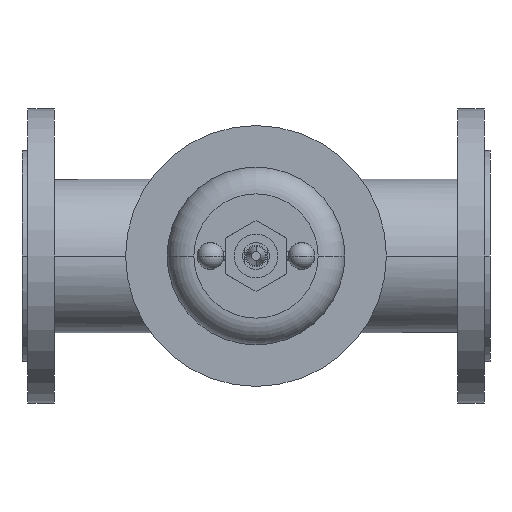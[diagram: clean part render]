
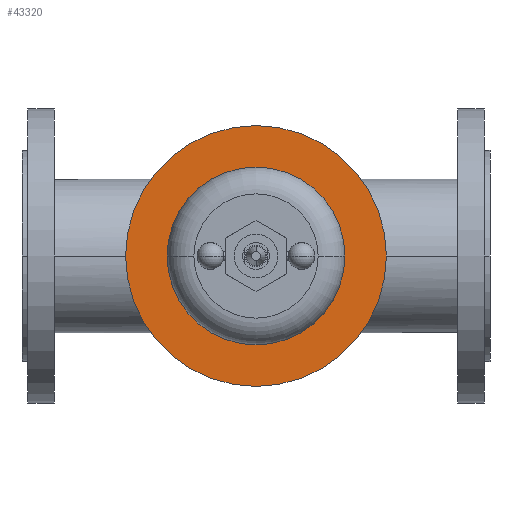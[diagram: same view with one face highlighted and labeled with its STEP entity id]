
A CAD part, front view. The second image highlights one B-rep face of the part: STEP entity #43320.
In plain terms, the highlighted planar face has unit normal (0, -1, 0).
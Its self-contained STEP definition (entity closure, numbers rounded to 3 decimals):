
#9550=CARTESIAN_POINT('',(108.5,-142.5,0.));
#9560=VERTEX_POINT('',#9550);
#9590=CARTESIAN_POINT('',(175.,-142.5,0.));
#9600=DIRECTION('',(0.,-1.,0.));
#9610=DIRECTION('',(-1.,0.,0.));
#9620=AXIS2_PLACEMENT_3D('',#9590,#9600,#9610);
#9630=CIRCLE('',#9620,66.5);
#9640=CARTESIAN_POINT('',(241.5,-142.5,0.));
#9650=VERTEX_POINT('',#9640);
#9660=EDGE_CURVE('',#9650,#9560,#9630,.T.);
#18590=CARTESIAN_POINT('',(272.5,-142.5,0.));
#18600=VERTEX_POINT('',#18590);
#18630=CARTESIAN_POINT('',(175.,-142.5,0.));
#18640=DIRECTION('',(0.,-1.,0.));
#18650=DIRECTION('',(1.,0.,0.));
#18660=AXIS2_PLACEMENT_3D('',#18630,#18640,#18650);
#18670=CIRCLE('',#18660,97.5);
#18680=CARTESIAN_POINT('',(77.5,-142.5,0.));
#18690=VERTEX_POINT('',#18680);
#18700=EDGE_CURVE('',#18600,#18690,#18670,.T.);
#43170=CARTESIAN_POINT('',(92.5,-142.5,0.));
#43180=DIRECTION('',(0.,-1.,0.));
#43190=DIRECTION('',(-1.,0.,0.));
#43200=AXIS2_PLACEMENT_3D('',#43170,#43180,#43190);
#43210=PLANE('',#43200);
#43220=ORIENTED_EDGE('',*,*,#18700,.T.);
#43230=EDGE_CURVE('',#18690,#18600,#18670,.T.);
#43240=ORIENTED_EDGE('',*,*,#43230,.T.);
#43250=EDGE_LOOP('',(#43240,#43220));
#43260=FACE_OUTER_BOUND('',#43250,.T.);
#43270=ORIENTED_EDGE('',*,*,#9660,.F.);
#43280=EDGE_CURVE('',#9560,#9650,#9630,.T.);
#43290=ORIENTED_EDGE('',*,*,#43280,.F.);
#43300=EDGE_LOOP('',(#43290,#43270));
#43310=FACE_BOUND('',#43300,.T.);
#43320=ADVANCED_FACE('',(#43260,#43310),#43210,.T.);
